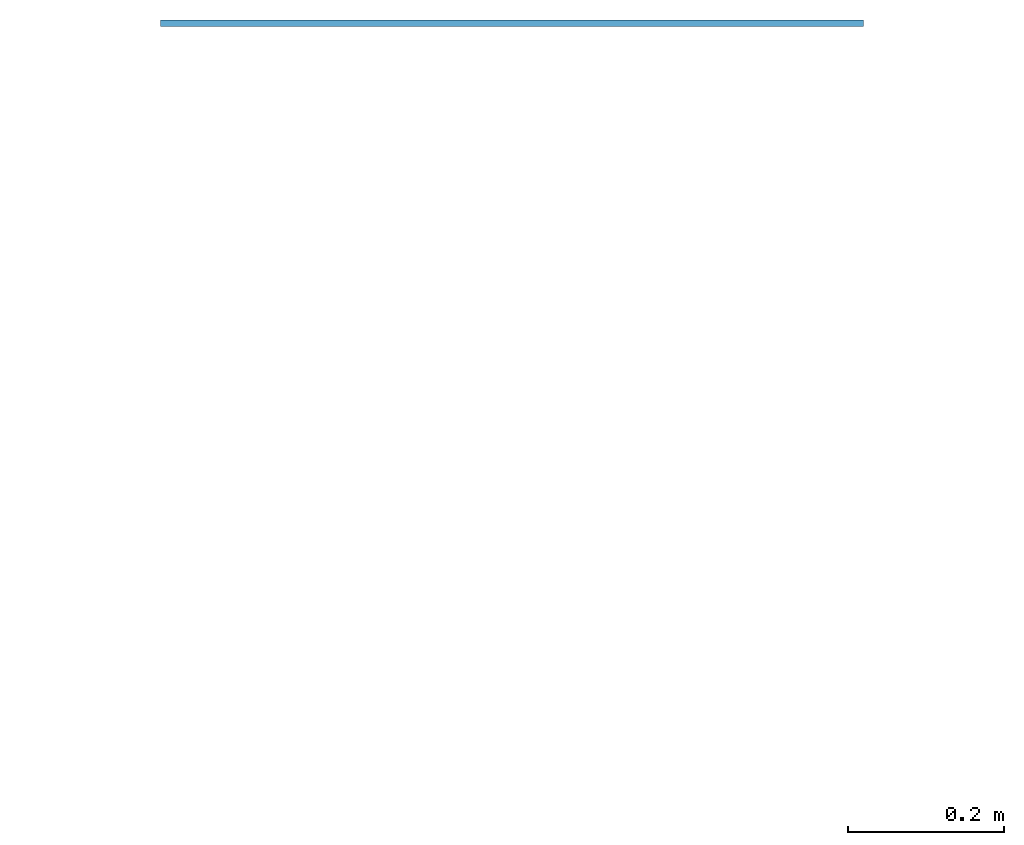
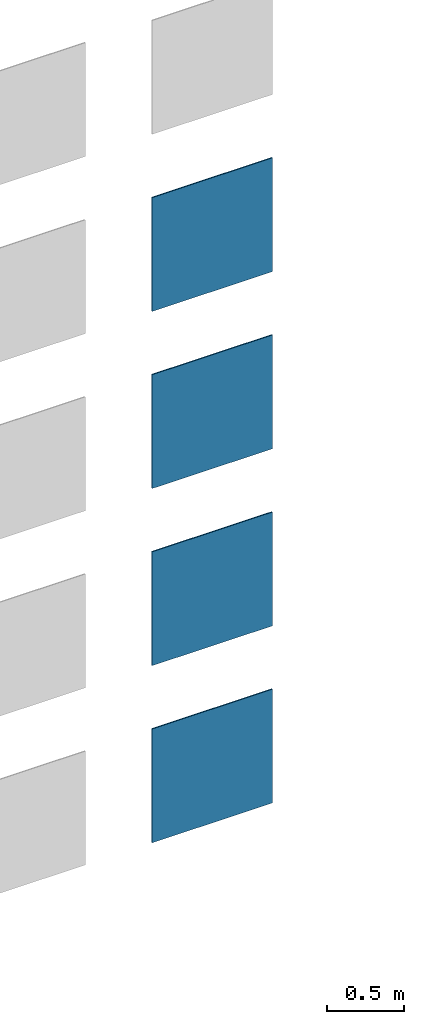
# One storey, part 3 of 3: 4 walls.
"""IFC2X3 building model written with IfcOpenShell, lengths in metres."""

from ifc_helpers import new_model, entity, si_unit, converted_unit, derived_unit, direction, frame, frame_2d, origin, place, context, subcontext, project, spatial, rectangle, extrude, material, layer, layer_set, layer_usage, type_object, element, save


model = new_model("IFC2X3")

# Units and contexts
model_context = context("Model", 3, precision=1e-05, world=origin(), true_north=direction((6.12303176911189e-17, 1.0)))
body_context = subcontext(model_context, "Body", "Model", "MODEL_VIEW")
ifc_project = project(units=[si_unit("LENGTHUNIT", "METRE"), si_unit("AREAUNIT", "SQUARE_METRE"), si_unit("VOLUMEUNIT", "CUBIC_METRE"), converted_unit("PLANEANGLEUNIT", "DEGREE", entity("IfcRatioMeasure", 0.0174532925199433), si_unit("PLANEANGLEUNIT", "RADIAN"), dimensions=[0, 0, 0, 0, 0, 0, 0]), si_unit("MASSUNIT", "GRAM", prefix="KILO"), si_unit("TIMEUNIT", "SECOND"), si_unit("FREQUENCYUNIT", "HERTZ"), si_unit("THERMODYNAMICTEMPERATUREUNIT", "DEGREE_CELSIUS"), derived_unit("THERMALTRANSMITTANCEUNIT", [(si_unit("MASSUNIT", "GRAM", prefix="KILO"), 1), (si_unit("THERMODYNAMICTEMPERATUREUNIT", "KELVIN"), -1), (si_unit("TIMEUNIT", "SECOND"), -3)]), derived_unit("VOLUMETRICFLOWRATEUNIT", [(si_unit("LENGTHUNIT", "METRE"), 3), (si_unit("TIMEUNIT", "SECOND"), -1)]), si_unit("ELECTRICCURRENTUNIT", "AMPERE"), si_unit("ELECTRICVOLTAGEUNIT", "VOLT"), si_unit("POWERUNIT", "WATT"), si_unit("FORCEUNIT", "NEWTON", prefix="KILO"), si_unit("ILLUMINANCEUNIT", "LUX"), si_unit("LUMINOUSFLUXUNIT", "LUMEN"), si_unit("LUMINOUSINTENSITYUNIT", "CANDELA"), derived_unit("USERDEFINED", [(si_unit("MASSUNIT", "GRAM", prefix="KILO"), -1), (si_unit("LENGTHUNIT", "METRE"), -2), (si_unit("TIMEUNIT", "SECOND"), 3), (si_unit("LUMINOUSFLUXUNIT", "LUMEN"), 1)]), derived_unit("LINEARVELOCITYUNIT", [(si_unit("LENGTHUNIT", "METRE"), 1), (si_unit("TIMEUNIT", "SECOND"), -1)]), si_unit("PRESSUREUNIT", "PASCAL"), derived_unit("USERDEFINED", [(si_unit("LENGTHUNIT", "METRE"), -2), (si_unit("MASSUNIT", "GRAM", prefix="KILO"), 1), (si_unit("TIMEUNIT", "SECOND"), -2)])], contexts=[model_context])

# Site, building, storey
site_placement = place(None, origin())
site = spatial("IfcSite", under=ifc_project, at=site_placement, Name="Default", CompositionType="ELEMENT")
building_placement = place(site_placement, origin())
building = spatial("IfcBuilding", under=site, at=building_placement, CompositionType="ELEMENT")
storey_placement = place(building_placement, origin())
storey = spatial("IfcBuildingStorey", under=building, at=storey_placement, Name="FARNESE FLOOR TILES", CompositionType="ELEMENT", Elevation=0.0)

# Walls
ifc_material_1 = material(Name="VIVES AMALFI-R GRAFITO 29.3x29.3")
ifc_layer_1 = layer(ifc_material_1, 0.0082)
ifc_layer_set_1 = layer_set([ifc_layer_1], Name="Muro básico:VIVES AMALFI-R GRAFITO 29.3X29.3")
ifc_layer_usage_1 = layer_usage(ifc_layer_set_1, "AXIS2", "NEGATIVE", 0.0041)
wall_type_1 = type_object("IfcWallType", Name="Muro básico:VIVES AMALFI-R GRAFITO 29.3X29.3", PredefinedType="STANDARD", material=ifc_layer_set_1)
wall_1_placement = place(storey_placement, frame((3.33193429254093, 0.618072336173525, 0.403364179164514)))
element("IfcWallStandardCase", 1, at=wall_1_placement, inside=storey, type_object=wall_type_1, material=ifc_layer_usage_1, Name="Muro básico:VIVES AMALFI-R GRAFITO 29.3X29.3", ObjectType="Muro básico:VIVES AMALFI-R GRAFITO 29.3X29.3", context=body_context, shape_type="SweptSolid", body=[
    extrude(rectangle(XDim=0.9, YDim=0.00820000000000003, at=frame_2d((0.45, 5.46437894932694e-17), x_axis=(-1.0, 0.0))), origin(), (0.0, 0.0, 1.0), 0.9),
])
ifc_material_2 = material(Name="VIVES AMALFI-R ROSA 29.3x29.3")
ifc_layer_2 = layer(ifc_material_2, 0.0082)
ifc_layer_set_2 = layer_set([ifc_layer_2], Name="Muro básico:VIVES AMALFI-R ROSA 29.3X29.3")
ifc_layer_usage_2 = layer_usage(ifc_layer_set_2, "AXIS2", "NEGATIVE", 0.0041)
wall_type_2 = type_object("IfcWallType", Name="Muro básico:VIVES AMALFI-R ROSA 29.3X29.3", PredefinedType="STANDARD", material=ifc_layer_set_2)
wall_2_placement = place(storey_placement, frame((3.33193429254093, 0.618072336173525, -0.996635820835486)))
element("IfcWallStandardCase", 2, at=wall_2_placement, inside=storey, type_object=wall_type_2, material=ifc_layer_usage_2, Name="Muro básico:VIVES AMALFI-R ROSA 29.3X29.3", ObjectType="Muro básico:VIVES AMALFI-R ROSA 29.3X29.3", context=body_context, shape_type="SweptSolid", body=[
    extrude(rectangle(XDim=0.9, YDim=0.00820000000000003, at=frame_2d((0.45, 5.46437894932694e-17), x_axis=(-1.0, 0.0))), origin(), (0.0, 0.0, 1.0), 0.9),
])
ifc_material_3 = material(Name="VIVES APULIA-R HUMO 29.3x29.3")
ifc_layer_3 = layer(ifc_material_3, 0.0082)
ifc_layer_set_3 = layer_set([ifc_layer_3], Name="Muro básico:VIVES APULIA-R HUMO 29.3X29.3")
ifc_layer_usage_3 = layer_usage(ifc_layer_set_3, "AXIS2", "NEGATIVE", 0.0041)
wall_type_3 = type_object("IfcWallType", Name="Muro básico:VIVES APULIA-R HUMO 29.3X29.3", PredefinedType="STANDARD", material=ifc_layer_set_3)
wall_3_placement = place(storey_placement, frame((3.33193429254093, 0.618072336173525, -2.39663582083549)))
element("IfcWallStandardCase", 3, at=wall_3_placement, inside=storey, type_object=wall_type_3, material=ifc_layer_usage_3, Name="Muro básico:VIVES APULIA-R HUMO 29.3X29.3", ObjectType="Muro básico:VIVES APULIA-R HUMO 29.3X29.3", context=body_context, shape_type="SweptSolid", body=[
    extrude(rectangle(XDim=0.9, YDim=0.00820000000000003, at=frame_2d((0.45, 5.46437894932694e-17), x_axis=(-1.0, 0.0))), origin(), (0.0, 0.0, 1.0), 0.9),
])
ifc_material_4 = material(Name="VIVES MOLISE-R GRAFITO 29.3x29.3")
ifc_layer_4 = layer(ifc_material_4, 0.0082)
ifc_layer_set_4 = layer_set([ifc_layer_4], Name="Muro básico:VIVES MOLISE-R GRAFITO 29.3X29.3")
ifc_layer_usage_4 = layer_usage(ifc_layer_set_4, "AXIS2", "NEGATIVE", 0.0041)
wall_type_4 = type_object("IfcWallType", Name="Muro básico:VIVES MOLISE-R GRAFITO 29.3X29.3", PredefinedType="STANDARD", material=ifc_layer_set_4)
wall_4_placement = place(storey_placement, frame((3.33193429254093, 0.618072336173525, -3.79663582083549)))
element("IfcWallStandardCase", 4, at=wall_4_placement, inside=storey, type_object=wall_type_4, material=ifc_layer_usage_4, Name="Muro básico:VIVES MOLISE-R GRAFITO 29.3X29.3", ObjectType="Muro básico:VIVES MOLISE-R GRAFITO 29.3X29.3", context=body_context, shape_type="SweptSolid", body=[
    extrude(rectangle(XDim=0.9, YDim=0.00820000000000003, at=frame_2d((0.45, 5.46437894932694e-17), x_axis=(-1.0, 0.0))), origin(), (0.0, 0.0, 1.0), 0.9),
])

save(model, "model.ifc")
